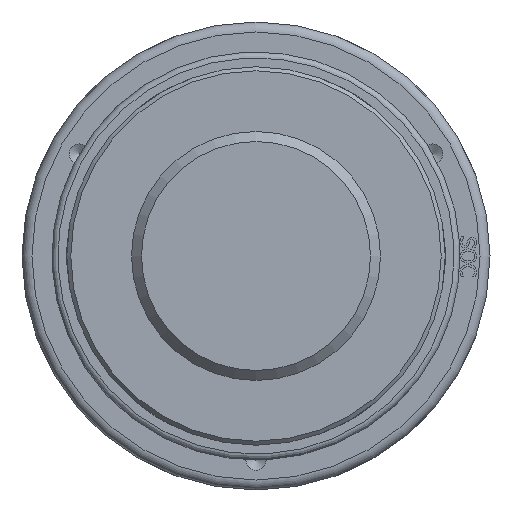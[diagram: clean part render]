
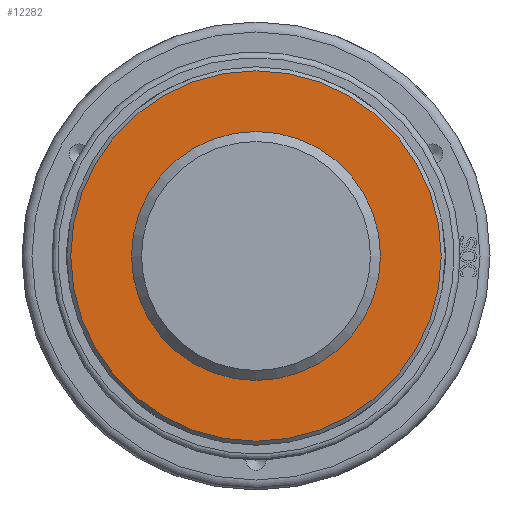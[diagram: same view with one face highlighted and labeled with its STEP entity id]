
A CAD part, front view. The second image highlights one B-rep face of the part: STEP entity #12282.
In plain terms, the highlighted planar face has unit normal (0, -1, 0) as drawn and (0, 1, 0) by its records, which use the part's own axes.
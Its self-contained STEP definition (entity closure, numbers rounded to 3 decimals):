
#90=CIRCLE('',#12905,93.);
#92=CIRCLE('',#12909,59.253);
#175=FACE_BOUND('',#1599,.T.);
#385=PLANE('',#12908);
#838=FACE_OUTER_BOUND('',#1598,.T.);
#1598=EDGE_LOOP('',(#9632));
#1599=EDGE_LOOP('',(#9633));
#5382=VERTEX_POINT('',#18954);
#5396=VERTEX_POINT('',#19194);
#6913=EDGE_CURVE('',#5382,#5382,#90,.T.);
#6927=EDGE_CURVE('',#5396,#5396,#92,.T.);
#9632=ORIENTED_EDGE('',*,*,#6913,.F.);
#9633=ORIENTED_EDGE('',*,*,#6927,.T.);
#12282=ADVANCED_FACE('',(#838,#175),#385,.T.);
#12905=AXIS2_PLACEMENT_3D('',#18955,#13924,#13925);
#12908=AXIS2_PLACEMENT_3D('',#19193,#13930,#13931);
#12909=AXIS2_PLACEMENT_3D('',#19195,#13932,#13933);
#13924=DIRECTION('center_axis',(0.,-1.,0.));
#13925=DIRECTION('ref_axis',(1.,0.,0.));
#13930=DIRECTION('center_axis',(0.,1.,0.));
#13931=DIRECTION('ref_axis',(0.,0.,1.));
#13932=DIRECTION('center_axis',(0.,-1.,0.));
#13933=DIRECTION('ref_axis',(1.,0.,0.));
#18954=CARTESIAN_POINT('',(-93.,62.5,0.));
#18955=CARTESIAN_POINT('Origin',(0.,62.5,0.));
#19193=CARTESIAN_POINT('Origin',(0.,62.5,0.));
#19194=CARTESIAN_POINT('',(-59.253,62.5,0.));
#19195=CARTESIAN_POINT('Origin',(0.,62.5,0.));
